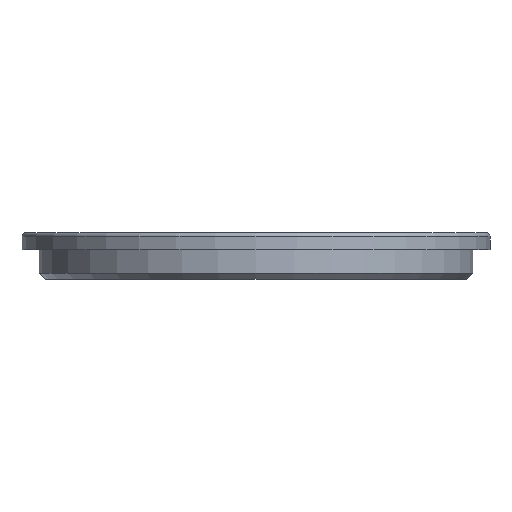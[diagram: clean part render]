
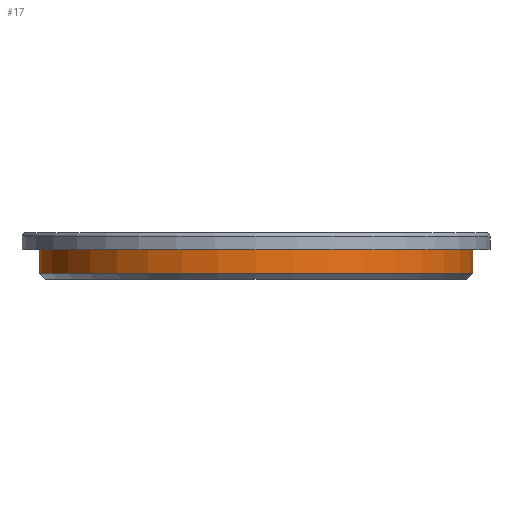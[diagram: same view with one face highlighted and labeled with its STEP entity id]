
A CAD part, front view. The second image highlights one B-rep face of the part: STEP entity #17.
In plain terms, the highlighted cylindrical face has radius 51 mm (diameter 102 mm), a full revolution.
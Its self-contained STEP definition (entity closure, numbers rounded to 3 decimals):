
#17 = ADVANCED_FACE('',(#18),#45,.T.);
#18 = FACE_BOUND('',#19,.F.);
#19 = EDGE_LOOP('',(#20,#30,#37,#38));
#20 = ORIENTED_EDGE('',*,*,#21,.F.);
#21 = EDGE_CURVE('',#22,#24,#26,.T.);
#22 = VERTEX_POINT('',#23);
#23 = CARTESIAN_POINT('',(0.,-51.,7.));
#24 = VERTEX_POINT('',#25);
#25 = CARTESIAN_POINT('',(0.,-51.,1.5));
#26 = LINE('',#27,#28);
#27 = CARTESIAN_POINT('',(0.,-51.,7.));
#28 = VECTOR('',#29,1.);
#29 = DIRECTION('',(0.,0.,-1.));
#30 = ORIENTED_EDGE('',*,*,#31,.T.);
#31 = EDGE_CURVE('',#22,#22,#32,.T.);
#32 = CIRCLE('',#33,51.);
#33 = AXIS2_PLACEMENT_3D('',#34,#35,#36);
#34 = CARTESIAN_POINT('',(0.,0.,7.));
#35 = DIRECTION('',(-0.,0.,1.));
#36 = DIRECTION('',(0.,-1.,0.));
#37 = ORIENTED_EDGE('',*,*,#21,.T.);
#38 = ORIENTED_EDGE('',*,*,#39,.F.);
#39 = EDGE_CURVE('',#24,#24,#40,.T.);
#40 = CIRCLE('',#41,51.);
#41 = AXIS2_PLACEMENT_3D('',#42,#43,#44);
#42 = CARTESIAN_POINT('',(0.,0.,1.5));
#43 = DIRECTION('',(-0.,0.,1.));
#44 = DIRECTION('',(0.,-1.,0.));
#45 = CYLINDRICAL_SURFACE('',#46,51.);
#46 = AXIS2_PLACEMENT_3D('',#47,#48,#49);
#47 = CARTESIAN_POINT('',(0.,0.,7.));
#48 = DIRECTION('',(-0.,-0.,-1.));
#49 = DIRECTION('',(0.,-1.,0.));
